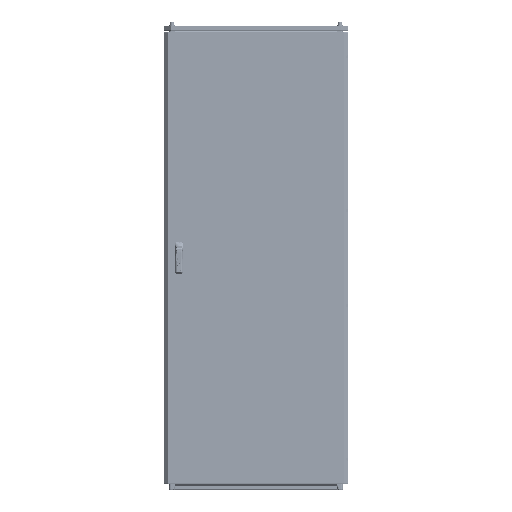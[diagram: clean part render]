
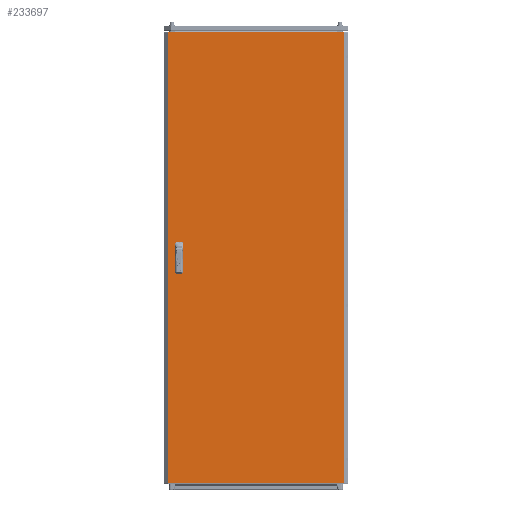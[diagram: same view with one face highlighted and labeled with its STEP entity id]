
A CAD part, top view. The second image highlights one B-rep face of the part: STEP entity #233697.
In plain terms, the highlighted planar face has unit normal (0, 0, 1).
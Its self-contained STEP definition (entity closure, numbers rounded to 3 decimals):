
#414 = CARTESIAN_POINT ( 'NONE',  ( 377.875, -969.5, 0. ) ) ;
#1624 = ORIENTED_EDGE ( 'NONE', *, *, #209046, .F. ) ;
#2835 = VERTEX_POINT ( 'NONE', #221642 ) ;
#4028 = VERTEX_POINT ( 'NONE', #74771 ) ;
#6030 = LINE ( 'NONE', #118413, #167693 ) ;
#7856 = ORIENTED_EDGE ( 'NONE', *, *, #51963, .F. ) ;
#11052 = VECTOR ( 'NONE', #93643, 1000. ) ;
#20049 = CARTESIAN_POINT ( 'NONE',  ( -342.5, 62.5, 0. ) ) ;
#20663 = DIRECTION ( 'NONE',  ( 1., 0., 0. ) ) ;
#21472 = ORIENTED_EDGE ( 'NONE', *, *, #165841, .F. ) ;
#24388 = VERTEX_POINT ( 'NONE', #204084 ) ;
#26163 = EDGE_LOOP ( 'NONE', ( #146270, #66409, #7856, #212889 ) ) ;
#26165 = PLANE ( 'NONE',  #142453 ) ;
#39805 = VECTOR ( 'NONE', #211144, 1000. ) ;
#40457 = VECTOR ( 'NONE', #98571, 1000. ) ;
#45430 = ORIENTED_EDGE ( 'NONE', *, *, #135483, .T. ) ;
#46279 = EDGE_CURVE ( 'NONE', #78409, #94537, #151041, .T. ) ;
#48808 = VECTOR ( 'NONE', #205339, 1000. ) ;
#49769 = DIRECTION ( 'NONE',  ( -1., 0., 0. ) ) ;
#51963 = EDGE_CURVE ( 'NONE', #241579, #4028, #112179, .T. ) ;
#57526 = VECTOR ( 'NONE', #67900, 1000. ) ;
#58550 = CARTESIAN_POINT ( 'NONE',  ( -342.5, 62.5, 0. ) ) ;
#59244 = ORIENTED_EDGE ( 'NONE', *, *, #46279, .T. ) ;
#61801 = CARTESIAN_POINT ( 'NONE',  ( -317.5, 62.5, 0. ) ) ;
#63042 = LINE ( 'NONE', #101274, #39805 ) ;
#66409 = ORIENTED_EDGE ( 'NONE', *, *, #230563, .F. ) ;
#67900 = DIRECTION ( 'NONE',  ( 1., 0., 0. ) ) ;
#68900 = EDGE_CURVE ( 'NONE', #148842, #24388, #189317, .T. ) ;
#69121 = CARTESIAN_POINT ( 'NONE',  ( -342.5, -62.5, 0. ) ) ;
#71429 = EDGE_LOOP ( 'NONE', ( #156357, #241889, #21472, #1624 ) ) ;
#73725 = VECTOR ( 'NONE', #20663, 1000. ) ;
#74337 = DIRECTION ( 'NONE',  ( 0., 1., 0. ) ) ;
#74771 = CARTESIAN_POINT ( 'NONE',  ( -317.5, 12.5, 0. ) ) ;
#75095 = CARTESIAN_POINT ( 'NONE',  ( -342.5, 12.5, 0. ) ) ;
#77186 = EDGE_CURVE ( 'NONE', #204981, #241579, #80042, .T. ) ;
#78409 = VERTEX_POINT ( 'NONE', #174831 ) ;
#80042 = LINE ( 'NONE', #231862, #40457 ) ;
#86002 = ORIENTED_EDGE ( 'NONE', *, *, #68900, .T. ) ;
#86601 = FACE_OUTER_BOUND ( 'NONE', #133401, .T. ) ;
#90427 = CARTESIAN_POINT ( 'NONE',  ( -342.5, -12.5, 0. ) ) ;
#93643 = DIRECTION ( 'NONE',  ( 1., 0., 0. ) ) ;
#94537 = VERTEX_POINT ( 'NONE', #216296 ) ;
#98315 = VERTEX_POINT ( 'NONE', #98849 ) ;
#98571 = DIRECTION ( 'NONE',  ( 0., -1., 0. ) ) ;
#98849 = CARTESIAN_POINT ( 'NONE',  ( -342.5, -62.5, 0. ) ) ;
#101274 = CARTESIAN_POINT ( 'NONE',  ( -317.5, 12.5, 0. ) ) ;
#105125 = CARTESIAN_POINT ( 'NONE',  ( -377.875, 969.5, 0. ) ) ;
#107417 = VERTEX_POINT ( 'NONE', #233856 ) ;
#108969 = CARTESIAN_POINT ( 'NONE',  ( -317.5, -62.5, 0. ) ) ;
#112179 = LINE ( 'NONE', #75095, #11052 ) ;
#112675 = DIRECTION ( 'NONE',  ( -1., 0., 0. ) ) ;
#118413 = CARTESIAN_POINT ( 'NONE',  ( -342.5, -62.5, 0. ) ) ;
#120018 = DIRECTION ( 'NONE',  ( -1., 0., 0. ) ) ;
#121248 = LINE ( 'NONE', #105125, #156788 ) ;
#121383 = EDGE_CURVE ( 'NONE', #2835, #205322, #243459, .T. ) ;
#133062 = LINE ( 'NONE', #149137, #73725 ) ;
#133401 = EDGE_LOOP ( 'NONE', ( #59244, #45430, #86002, #222008 ) ) ;
#134791 = EDGE_CURVE ( 'NONE', #24388, #78409, #133062, .T. ) ;
#135483 = EDGE_CURVE ( 'NONE', #94537, #148842, #121248, .T. ) ;
#135666 = VECTOR ( 'NONE', #225056, 1000. ) ;
#142453 = AXIS2_PLACEMENT_3D ( 'NONE', #163118, #217403, #200127 ) ;
#144465 = LINE ( 'NONE', #69121, #57526 ) ;
#145616 = VECTOR ( 'NONE', #112675, 1000. ) ;
#146270 = ORIENTED_EDGE ( 'NONE', *, *, #180713, .F. ) ;
#148842 = VERTEX_POINT ( 'NONE', #195341 ) ;
#149137 = CARTESIAN_POINT ( 'NONE',  ( -377.875, -969.5, 0. ) ) ;
#151041 = LINE ( 'NONE', #414, #135666 ) ;
#151124 = CARTESIAN_POINT ( 'NONE',  ( -317.5, -12.5, 0. ) ) ;
#156357 = ORIENTED_EDGE ( 'NONE', *, *, #220735, .F. ) ;
#156788 = VECTOR ( 'NONE', #120018, 1000. ) ;
#163118 = CARTESIAN_POINT ( 'NONE',  ( 0., 0., 0. ) ) ;
#165841 = EDGE_CURVE ( 'NONE', #98315, #2835, #144465, .T. ) ;
#167693 = VECTOR ( 'NONE', #193637, 1000. ) ;
#174831 = CARTESIAN_POINT ( 'NONE',  ( 377.875, -969.5, 0. ) ) ;
#180713 = EDGE_CURVE ( 'NONE', #214830, #204981, #189184, .T. ) ;
#189184 = LINE ( 'NONE', #20049, #145616 ) ;
#189317 = LINE ( 'NONE', #223891, #48808 ) ;
#191441 = VECTOR ( 'NONE', #49769, 1000. ) ;
#193637 = DIRECTION ( 'NONE',  ( 0., -1., 0. ) ) ;
#195267 = FACE_BOUND ( 'NONE', #71429, .T. ) ;
#195341 = CARTESIAN_POINT ( 'NONE',  ( -377.875, 969.5, 0. ) ) ;
#200127 = DIRECTION ( 'NONE',  ( -1., 0., 0. ) ) ;
#204084 = CARTESIAN_POINT ( 'NONE',  ( -377.875, -969.5, 0. ) ) ;
#204981 = VERTEX_POINT ( 'NONE', #58550 ) ;
#205322 = VERTEX_POINT ( 'NONE', #151124 ) ;
#205339 = DIRECTION ( 'NONE',  ( 0., -1., 0. ) ) ;
#209046 = EDGE_CURVE ( 'NONE', #107417, #98315, #6030, .T. ) ;
#211144 = DIRECTION ( 'NONE',  ( 0., 1., 0. ) ) ;
#212889 = ORIENTED_EDGE ( 'NONE', *, *, #77186, .F. ) ;
#214830 = VERTEX_POINT ( 'NONE', #61801 ) ;
#214987 = FACE_BOUND ( 'NONE', #26163, .T. ) ;
#216296 = CARTESIAN_POINT ( 'NONE',  ( 377.875, 969.5, 0. ) ) ;
#216921 = VECTOR ( 'NONE', #74337, 1000. ) ;
#217403 = DIRECTION ( 'NONE',  ( 0., 0., -1. ) ) ;
#220735 = EDGE_CURVE ( 'NONE', #205322, #107417, #237374, .T. ) ;
#221642 = CARTESIAN_POINT ( 'NONE',  ( -317.5, -62.5, 0. ) ) ;
#222008 = ORIENTED_EDGE ( 'NONE', *, *, #134791, .T. ) ;
#223891 = CARTESIAN_POINT ( 'NONE',  ( -377.875, -969.5, 0. ) ) ;
#225056 = DIRECTION ( 'NONE',  ( 0., 1., 0. ) ) ;
#230563 = EDGE_CURVE ( 'NONE', #4028, #214830, #63042, .T. ) ;
#231713 = CARTESIAN_POINT ( 'NONE',  ( -342.5, 12.5, 0. ) ) ;
#231862 = CARTESIAN_POINT ( 'NONE',  ( -342.5, 12.5, 0. ) ) ;
#233697 = ADVANCED_FACE ( 'NONE', ( #214987, #195267, #86601 ), #26165, .F. ) ;
#233856 = CARTESIAN_POINT ( 'NONE',  ( -342.5, -12.5, 0. ) ) ;
#237374 = LINE ( 'NONE', #90427, #191441 ) ;
#241579 = VERTEX_POINT ( 'NONE', #231713 ) ;
#241889 = ORIENTED_EDGE ( 'NONE', *, *, #121383, .F. ) ;
#243459 = LINE ( 'NONE', #108969, #216921 ) ;
